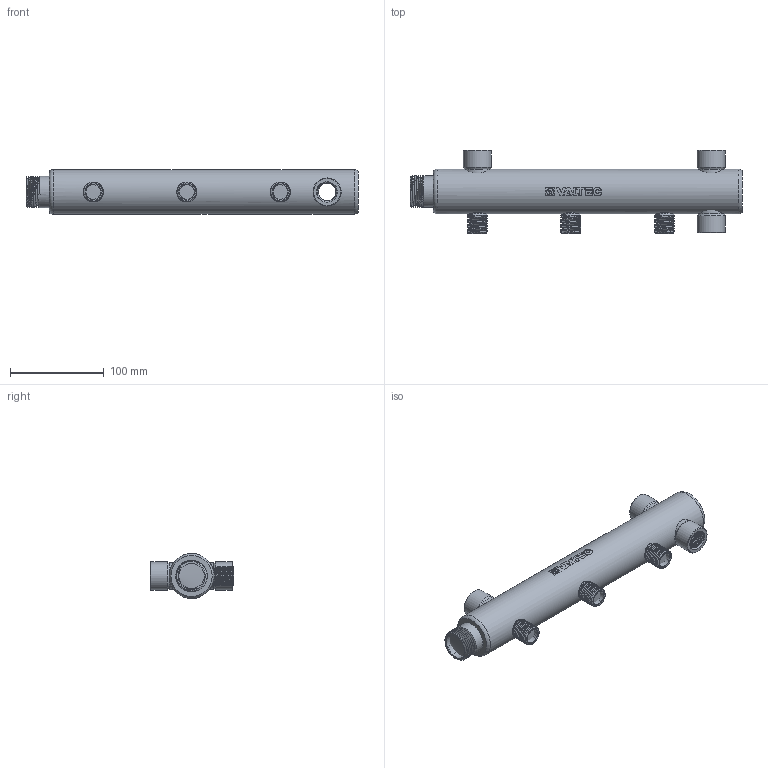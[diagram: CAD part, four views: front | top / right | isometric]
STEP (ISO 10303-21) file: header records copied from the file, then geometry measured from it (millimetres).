
FILE_DESCRIPTION(/* description */ (''),/* implementation_level */ '2;1');
FILE_NAME(/* name */ 'F:\Артём\00000\Работа удаленка\ГРВ\VTc.510.BS.060403.stp',/* time_stamp */ '2022-09-22T12:10:59+03:00',/* author */ ('almis'),/* organization */ (''),/* preprocessor_version */ 'ST-DEVELOPER v18',/* originating_system */ 'Autodesk Inventor 2020',/* authorisation */ '');
FILE_SCHEMA (('AUTOMOTIVE_DESIGN { 1 0 10303 214 3 1 1 }'));
Products named in the file (1): ГРВ-44.100
Bounding box: 355 x 89 x 48.02 mm (x, y, z)
Volume: 211429.9 mm3; surface area: 132219.7 mm2
Topology: 1 solids, 1 shells, 484 faces, 1336 edges, 887 vertices
Faces by surface type: cylinder 216, plane 180, bspline 64, cone 22, torus 2
Full cylindrical faces by diameter (mm): 15.7 x4, 17.7 x36, 19 x30, 19.3 x3, 21.3 x30, 22.6 x33, 27.1 x1, 28 x5, 28.9 x6, 30 x3, 33.5 x6, 41 x1, 48 x1
Entity records: 35114 total; most frequent: CARTESIAN_POINT 23938, ORIENTED_EDGE 2672, DIRECTION 1733, EDGE_CURVE 1336, VERTEX_POINT 887, B_SPLINE_CURVE_WITH_KNOTS 612, AXIS2_PLACEMENT_3D 588, LINE 557
